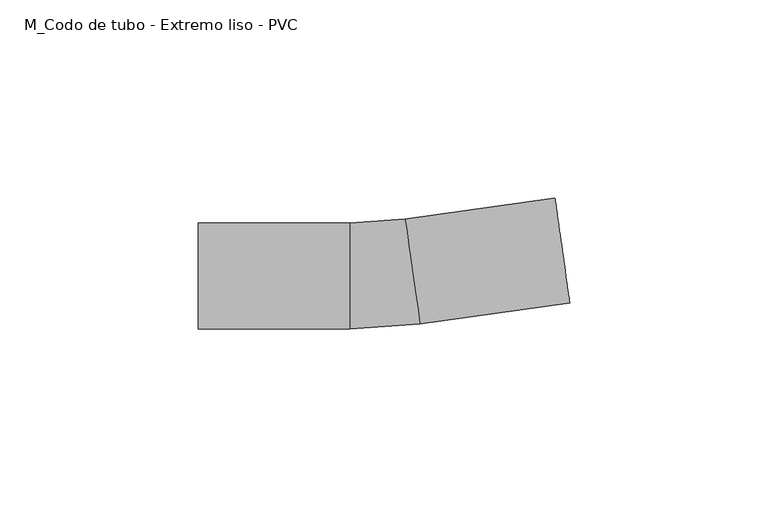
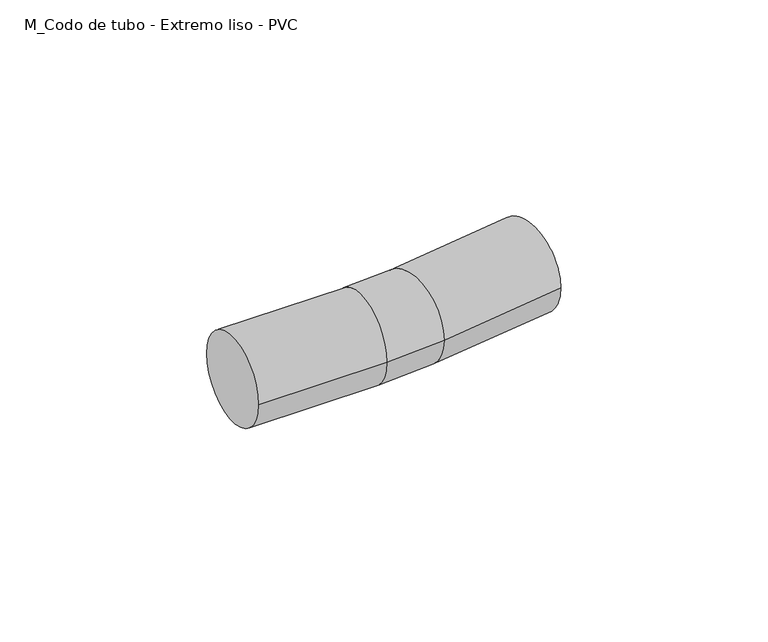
"""IFC4 building model written with IfcOpenShell, lengths in millimetres: cable carrier fitting geometry, M_Codo de tubo - Extremo liso - PVC : CODO POTENCIA."""

from ifc_helpers import new_model, si_unit, point, frame, origin, place, context, project, spatial, circle_curve, ellipse_curve, trimmed, source, transform, mapped, element, save
from ifc_brep_helpers import plane_surface, cylinder_surface, revolved_surface, advanced_brep


def m_codo_de_tubo_extremo_liso_pvc_3057f877(model_context):
    return source(origin(), model_context, "Body", "AdvancedBrep", [
        advanced_brep(
        [(-46.0926346, -13.335, 0.0), (-46.0926346, 13.335, 0.0), (-7.9926346, -13.335, 0.0), (-7.9926346, 13.335, 0.0), (6.0589775, 14.3175844, 0.0), (9.7707241, -12.092865, 0.0), (47.4999376, -6.7903698, 0.0), (43.788191, 19.6200796, 0.0)],
        [
            (0, 1, circle_curve(frame((-46.0926346, 0.0, 0.0), z_axis=(-1.0, 0.0, 0.0), x_axis=(0.0, 1.0, 0.0)), 13.335)),
            (1, 0, circle_curve(frame((-46.0926346, 0.0, 0.0), z_axis=(-1.0, 0.0, 0.0), x_axis=(0.0, 1.0, 0.0)), 13.335)),
            (0, 2),
            (2, 3, circle_curve(frame((-7.9926346, 0.0, 0.0), z_axis=(-1.0, 0.0, 0.0), x_axis=(0.0, 1.0, 0.0)), 13.335)),
            (3, 1),
            (3, 2, circle_curve(frame((-7.9926346, 0.0, 0.0), z_axis=(-1.0, 0.0, 0.0), x_axis=(0.0, 1.0, 0.0)), 13.335)),
            (4, 3, circle_curve(frame((-7.9926346, 114.3, 0.0), z_axis=(0.0, 0.0, -1.0), x_axis=(0.0, -1.0, 0.0)), 100.965)),
            (2, 5, circle_curve(frame((-7.9926346, 114.3, 0.0), z_axis=(0.0, 0.0, 1.0), x_axis=(0.0, -1.0, 0.0)), 127.635)),
            (5, 4, circle_curve(frame((7.9148508, 1.1123597, 0.0), z_axis=(-0.9902680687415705, -0.13917310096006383, 0.0), x_axis=(-0.13917310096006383, 0.9902680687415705, 0.0)), 13.335)),
            (4, 5, circle_curve(frame((7.9148508, 1.1123597, 0.0), z_axis=(-0.9902680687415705, -0.13917310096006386, 0.0), x_axis=(-0.13917310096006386, 0.9902680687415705, 0.0)), 13.335)),
            (6, 7, circle_curve(frame((45.6440643, 6.4148549, 0.0), z_axis=(0.9902680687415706, 0.13917310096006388, 0.0), x_axis=(-0.13917310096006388, 0.9902680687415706, 0.0)), 13.335)),
            (7, 6, circle_curve(frame((45.6440643, 6.4148549, 0.0), z_axis=(0.9902680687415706, 0.13917310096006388, 0.0), x_axis=(-0.13917310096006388, 0.9902680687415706, 0.0)), 13.335)),
            (5, 6),
            (7, 4),
        ],
        [
            plane_surface(frame((-46.0926346, 0.0, 0.0), z_axis=(-1.0, 0.0, 0.0), x_axis=(0.0, 0.0, 1.0))),
            cylinder_surface(frame((-46.0926346, 0.0, 0.0), z_axis=(-1.0, 0.0, 0.0), x_axis=(0.0, 1.0, 0.0)), 13.335),
            revolved_surface(trimmed(ellipse_curve(frame((-7.9926346, 0.0, 0.0), z_axis=(-1.0, 0.0, 0.0), x_axis=(0.0, 1.0, 0.0)), 13.335, 13.335), [point((-7.9926346, -13.335, 0.0))], [point((-7.9926346, 13.335, 0.0))], True, "CARTESIAN"), (-7.9926346, 114.3, 0.0), (0.0, 0.0, 1.0)),
            revolved_surface(trimmed(ellipse_curve(frame((-7.9926346, 0.0, 0.0), z_axis=(-1.0, 0.0, 0.0), x_axis=(0.0, 1.0, 0.0)), 13.335, 13.335), [point((-7.9926346, 13.335, 0.0))], [point((-7.9926346, -13.335, 0.0))], True, "CARTESIAN"), (-7.9926346, 114.3, 0.0), (0.0, 0.0, 1.0)),
            plane_surface(frame((45.6440643, 6.4148549, 0.0), z_axis=(0.9902680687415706, 0.1391731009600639, 0.0), x_axis=(0.0, 0.0, 1.0))),
            cylinder_surface(frame((7.9148508, 1.1123597, 0.0), z_axis=(-0.9902680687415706, -0.13917310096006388, 0.0), x_axis=(-0.13917310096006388, 0.9902680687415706, 0.0)), 13.335),
        ],
        [
            (0, [[1, 2]]),
            (1, [[-1, 3, 4, 5]]),
            (1, [[-2, -5, 6, -3]]),
            (2, [[7, -4, 8, 9]]),
            (3, [[-8, -6, -7, 10]]),
            (4, [[11, 12]]),
            (5, [[-9, 13, -12, 14]]),
            (5, [[-10, -14, -11, -13]]),
        ],
    ),
    ])


if __name__ == "__main__":
    model = new_model("IFC4")
    model_context = context("Model", 3, world=origin())
    ifc_project = project(units=[si_unit("LENGTHUNIT", "METRE", prefix="MILLI")], contexts=[model_context])
    site = spatial("IfcSite", under=ifc_project)
    building = spatial("IfcBuilding", under=site)
    placement = place(None, origin())
    m_codo_de_tubo_extremo_liso_pvc_shape = m_codo_de_tubo_extremo_liso_pvc_3057f877(model_context)
    element("IfcCableCarrierFitting", 1, ObjectType="M_Codo de tubo - Extremo liso - PVC : CODO POTENCIA", at=placement, inside=building, context=model_context, shape_type="MappedRepresentation", body=[
        mapped(m_codo_de_tubo_extremo_liso_pvc_shape, transform((0.0, 0.0, 0.0), x_axis=(1.0, 0.0, 0.0), y_axis=(0.0, 1.0, 0.0), z_axis=(0.0, 0.0, 1.0))),
    ])
    save(model, "model.ifc")
